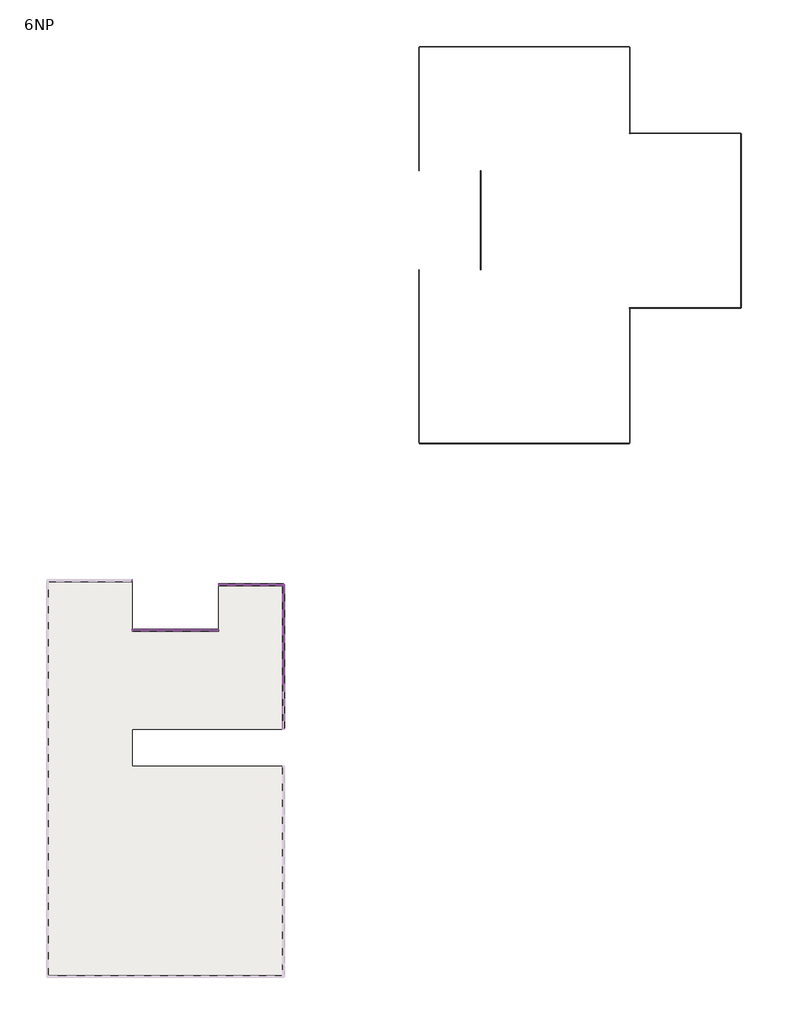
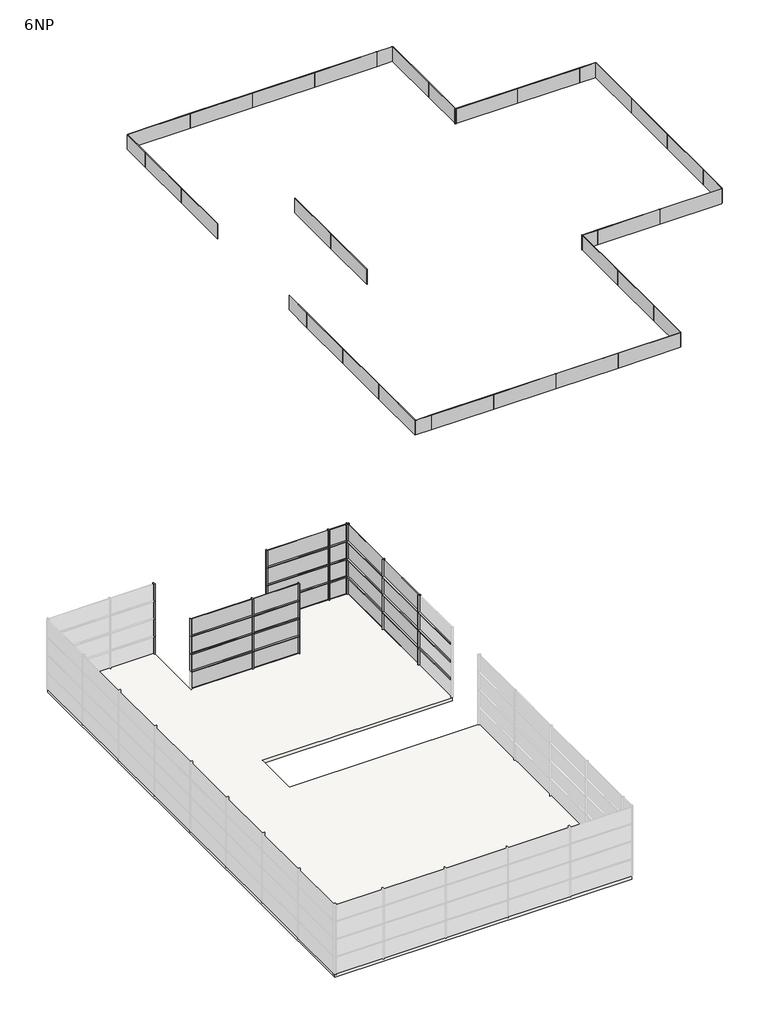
# One storey, part 3 of 3: 60 members, 58 plates, 1 slab.
"""IFC4 building model written with IfcOpenShell, lengths in millimetres."""

from ifc_helpers import new_model, si_unit, frame, origin, place, context, project, spatial, polyline, outline, extrude, transform, mapped, element, save
from components import rectangular_mullion_50_x_150mm_d99dc9be, rectangular_mullion_50_x_150mm_6588f46c, rectangular_mullion_50_x_150mm_3fe1b35e, rectangular_mullion_50_x_150mm_a037c29c, rectangular_mullion_50_x_150mm_c2546fd4, rectangular_mullion_50_x_150mm_568dda71, rectangular_mullion_50_x_150mm_268a5786, rectangular_mullion_50_x_150mm_185cfd49, rectangular_mullion_50_x_150mm_2fe63767, system_panel_glazed_8e9402eb, system_panel_glazed_89ac83a7, system_panel_glazed_cf4d7c03, system_panel_glazed_7b3729bb, system_panel_glazed_e3e91f99, system_panel_glazed_42406b18, system_panel_glazed_39d17f19, system_panel_glazed_61ef3558, system_panel_glazed_bb07d536, system_panel_glazed_0a4e9c67, system_panel_glazed_80d48844, system_panel_glazed_27c984d1, system_panel_glazed_a1594aab, system_panel_glazed_1a95088b

model = new_model("IFC4")

# Units and contexts
model_context = context("Model", 3, world=origin())
ifc_project = project(units=[si_unit("LENGTHUNIT", "METRE", prefix="MILLI")], contexts=[model_context])

# Site, building, storey
site = spatial("IfcSite", under=ifc_project)
building = spatial("IfcBuilding", under=site)
storey = spatial("IfcBuildingStorey", under=building, Name="6NP", Elevation=24000.0)

# Members
placement = place(None, origin())
rectangular_mullion_50_x_150mm_shape = rectangular_mullion_50_x_150mm_d99dc9be(model_context)
element("IfcMember", 1, ObjectType="Rectangular Mullion : 50 x 150mm", at=placement, inside=storey, context=model_context, shape_type="MappedRepresentation", body=[
    mapped(rectangular_mullion_50_x_150mm_shape, transform((13503.2660975, 39.3555415, 27600.0), x_axis=(0.0, -1.0, 0.0), y_axis=(1.0, 0.0, 0.0), z_axis=(0.0, 0.0, 1.0))),
])
element("IfcMember", 2, ObjectType="Rectangular Mullion : 50 x 150mm", at=placement, inside=storey, context=model_context, shape_type="MappedRepresentation", body=[
    mapped(rectangular_mullion_50_x_150mm_shape, transform((13503.2660975, 39.3555415, 26400.0), x_axis=(0.0, -1.0, 0.0), y_axis=(1.0, 0.0, 0.0), z_axis=(0.0, 0.0, 1.0))),
])
element("IfcMember", 3, ObjectType="Rectangular Mullion : 50 x 150mm", at=placement, inside=storey, context=model_context, shape_type="MappedRepresentation", body=[
    mapped(rectangular_mullion_50_x_150mm_shape, transform((13503.2660975, 39.3555415, 25200.0), x_axis=(0.0, -1.0, 0.0), y_axis=(1.0, 0.0, 0.0), z_axis=(0.0, 0.0, 1.0))),
])
element("IfcMember", 4, ObjectType="Rectangular Mullion : 50 x 150mm", at=placement, inside=storey, context=model_context, shape_type="MappedRepresentation", body=[
    mapped(rectangular_mullion_50_x_150mm_shape, transform((13503.2660975, 4039.3555415, 27600.0), x_axis=(0.0, -1.0, 0.0), y_axis=(1.0, 0.0, 0.0), z_axis=(0.0, 0.0, 1.0))),
])
element("IfcMember", 5, ObjectType="Rectangular Mullion : 50 x 150mm", at=placement, inside=storey, context=model_context, shape_type="MappedRepresentation", body=[
    mapped(rectangular_mullion_50_x_150mm_shape, transform((13503.2660975, 4039.3555415, 26400.0), x_axis=(0.0, -1.0, 0.0), y_axis=(1.0, 0.0, 0.0), z_axis=(0.0, 0.0, 1.0))),
])
element("IfcMember", 6, ObjectType="Rectangular Mullion : 50 x 150mm", at=placement, inside=storey, context=model_context, shape_type="MappedRepresentation", body=[
    mapped(rectangular_mullion_50_x_150mm_shape, transform((13503.2660975, 4039.3555415, 25200.0), x_axis=(0.0, -1.0, 0.0), y_axis=(1.0, 0.0, 0.0), z_axis=(0.0, 0.0, 1.0))),
])
element("IfcMember", 7, ObjectType="Rectangular Mullion : 50 x 150mm", at=placement, inside=storey, context=model_context, shape_type="MappedRepresentation", body=[
    mapped(rectangular_mullion_50_x_150mm_shape, transform((5278.419219, 4375.9839566, 25200.0), x_axis=(1.0, 0.0, 0.0), y_axis=(0.0, 1.0, 0.0), z_axis=(0.0, 0.0, 1.0))),
])
element("IfcMember", 8, ObjectType="Rectangular Mullion : 50 x 150mm", at=placement, inside=storey, context=model_context, shape_type="MappedRepresentation", body=[
    mapped(rectangular_mullion_50_x_150mm_shape, transform((5278.419219, 4375.9839566, 26400.0), x_axis=(1.0, 0.0, 0.0), y_axis=(0.0, 1.0, 0.0), z_axis=(0.0, 0.0, 1.0))),
])
element("IfcMember", 9, ObjectType="Rectangular Mullion : 50 x 150mm", at=placement, inside=storey, context=model_context, shape_type="MappedRepresentation", body=[
    mapped(rectangular_mullion_50_x_150mm_shape, transform((5278.419219, 4375.9839566, 27600.0), x_axis=(1.0, 0.0, 0.0), y_axis=(0.0, 1.0, 0.0), z_axis=(0.0, 0.0, 1.0))),
])
element("IfcMember", 10, ObjectType="Rectangular Mullion : 50 x 150mm", at=placement, inside=storey, context=model_context, shape_type="MappedRepresentation", body=[
    mapped(rectangular_mullion_50_x_150mm_shape, transform((12278.419219, 8039.3555415, 25200.0), x_axis=(1.0, 0.0, 0.0), y_axis=(0.0, 1.0, 0.0), z_axis=(0.0, 0.0, 1.0))),
])
element("IfcMember", 11, ObjectType="Rectangular Mullion : 50 x 150mm", at=placement, inside=storey, context=model_context, shape_type="MappedRepresentation", body=[
    mapped(rectangular_mullion_50_x_150mm_shape, transform((12278.419219, 8039.3555415, 26400.0), x_axis=(1.0, 0.0, 0.0), y_axis=(0.0, 1.0, 0.0), z_axis=(0.0, 0.0, 1.0))),
])
element("IfcMember", 12, ObjectType="Rectangular Mullion : 50 x 150mm", at=placement, inside=storey, context=model_context, shape_type="MappedRepresentation", body=[
    mapped(rectangular_mullion_50_x_150mm_shape, transform((12278.419219, 8039.3555415, 27600.0), x_axis=(1.0, 0.0, 0.0), y_axis=(0.0, 1.0, 0.0), z_axis=(0.0, 0.0, 1.0))),
])
rectangular_mullion_50_x_150mm_2_shape = rectangular_mullion_50_x_150mm_6588f46c(model_context)
element("IfcMember", 13, ObjectType="Rectangular Mullion : 50 x 150mm", at=placement, inside=storey, context=model_context, shape_type="MappedRepresentation", body=[
    mapped(rectangular_mullion_50_x_150mm_2_shape, transform((1278.419219, 8375.9839566, 25200.0), x_axis=(1.0, 0.0, 0.0), y_axis=(0.0, 1.0, 0.0), z_axis=(0.0, 0.0, 1.0))),
])
element("IfcMember", 14, ObjectType="Rectangular Mullion : 50 x 150mm", at=placement, inside=storey, context=model_context, shape_type="MappedRepresentation", body=[
    mapped(rectangular_mullion_50_x_150mm_2_shape, transform((1278.419219, 8375.9839566, 26400.0), x_axis=(1.0, 0.0, 0.0), y_axis=(0.0, 1.0, 0.0), z_axis=(0.0, 0.0, 1.0))),
])
element("IfcMember", 15, ObjectType="Rectangular Mullion : 50 x 150mm", at=placement, inside=storey, context=model_context, shape_type="MappedRepresentation", body=[
    mapped(rectangular_mullion_50_x_150mm_2_shape, transform((1278.419219, 8375.9839566, 27600.0), x_axis=(1.0, 0.0, 0.0), y_axis=(0.0, 1.0, 0.0), z_axis=(0.0, 0.0, 1.0))),
])
element("IfcMember", 16, ObjectType="Rectangular Mullion : 50 x 150mm", at=placement, inside=storey, context=model_context, shape_type="MappedRepresentation", body=[
    mapped(rectangular_mullion_50_x_150mm_2_shape, transform((8278.419219, 4375.9839566, 25200.0), x_axis=(1.0, 0.0, 0.0), y_axis=(0.0, 1.0, 0.0), z_axis=(0.0, 0.0, 1.0))),
])
element("IfcMember", 17, ObjectType="Rectangular Mullion : 50 x 150mm", at=placement, inside=storey, context=model_context, shape_type="MappedRepresentation", body=[
    mapped(rectangular_mullion_50_x_150mm_2_shape, transform((8278.419219, 4375.9839566, 26400.0), x_axis=(1.0, 0.0, 0.0), y_axis=(0.0, 1.0, 0.0), z_axis=(0.0, 0.0, 1.0))),
])
element("IfcMember", 18, ObjectType="Rectangular Mullion : 50 x 150mm", at=placement, inside=storey, context=model_context, shape_type="MappedRepresentation", body=[
    mapped(rectangular_mullion_50_x_150mm_2_shape, transform((8278.419219, 4375.9839566, 27600.0), x_axis=(1.0, 0.0, 0.0), y_axis=(0.0, 1.0, 0.0), z_axis=(0.0, 0.0, 1.0))),
])
element("IfcMember", 19, ObjectType="Rectangular Mullion : 50 x 150mm", at=placement, inside=storey, context=model_context, shape_type="MappedRepresentation", body=[
    mapped(rectangular_mullion_50_x_150mm_2_shape, transform((13503.2660975, 8039.3555415, 25200.0), x_axis=(1.0, 0.0, 0.0), y_axis=(0.0, 1.0, 0.0), z_axis=(0.0, 0.0, 1.0))),
])
element("IfcMember", 20, ObjectType="Rectangular Mullion : 50 x 150mm", at=placement, inside=storey, context=model_context, shape_type="MappedRepresentation", body=[
    mapped(rectangular_mullion_50_x_150mm_2_shape, transform((13503.2660975, 8039.3555415, 26400.0), x_axis=(1.0, 0.0, 0.0), y_axis=(0.0, 1.0, 0.0), z_axis=(0.0, 0.0, 1.0))),
])
element("IfcMember", 21, ObjectType="Rectangular Mullion : 50 x 150mm", at=placement, inside=storey, context=model_context, shape_type="MappedRepresentation", body=[
    mapped(rectangular_mullion_50_x_150mm_2_shape, transform((13503.2660975, 8039.3555415, 27600.0), x_axis=(1.0, 0.0, 0.0), y_axis=(0.0, 1.0, 0.0), z_axis=(0.0, 0.0, 1.0))),
])
rectangular_mullion_50_x_150mm_3_shape = rectangular_mullion_50_x_150mm_3fe1b35e(model_context)
element("IfcMember", 22, ObjectType="Rectangular Mullion : 50 x 150mm", at=placement, inside=storey, context=model_context, shape_type="MappedRepresentation", body=[
    mapped(rectangular_mullion_50_x_150mm_3_shape, transform((13503.2660975, 14.3555415, 27600.0), x_axis=(0.0, 0.0, 1.0), y_axis=(1.0, 0.0, 0.0), z_axis=(0.0, 1.0, 0.0))),
])
element("IfcMember", 23, ObjectType="Rectangular Mullion : 50 x 150mm", at=placement, inside=storey, context=model_context, shape_type="MappedRepresentation", body=[
    mapped(rectangular_mullion_50_x_150mm_3_shape, transform((13503.2660975, 14.3555415, 26400.0), x_axis=(0.0, 0.0, 1.0), y_axis=(1.0, 0.0, 0.0), z_axis=(0.0, 1.0, 0.0))),
])
element("IfcMember", 24, ObjectType="Rectangular Mullion : 50 x 150mm", at=placement, inside=storey, context=model_context, shape_type="MappedRepresentation", body=[
    mapped(rectangular_mullion_50_x_150mm_3_shape, transform((13503.2660975, 14.3555415, 25200.0), x_axis=(0.0, 0.0, 1.0), y_axis=(1.0, 0.0, 0.0), z_axis=(0.0, 1.0, 0.0))),
])
rectangular_mullion_50_x_150mm_4_shape = rectangular_mullion_50_x_150mm_a037c29c(model_context)
element("IfcMember", 25, ObjectType="Rectangular Mullion : 50 x 150mm", at=placement, inside=storey, context=model_context, shape_type="MappedRepresentation", body=[
    mapped(rectangular_mullion_50_x_150mm_4_shape, transform((13503.2660975, 4014.3555415, 27600.0), x_axis=(0.0, 0.0, 1.0), y_axis=(1.0, 0.0, 0.0), z_axis=(0.0, 1.0, 0.0))),
])
element("IfcMember", 26, ObjectType="Rectangular Mullion : 50 x 150mm", at=placement, inside=storey, context=model_context, shape_type="MappedRepresentation", body=[
    mapped(rectangular_mullion_50_x_150mm_4_shape, transform((13503.2660975, 4014.3555415, 26400.0), x_axis=(0.0, 0.0, 1.0), y_axis=(1.0, 0.0, 0.0), z_axis=(0.0, 1.0, 0.0))),
])
element("IfcMember", 27, ObjectType="Rectangular Mullion : 50 x 150mm", at=placement, inside=storey, context=model_context, shape_type="MappedRepresentation", body=[
    mapped(rectangular_mullion_50_x_150mm_4_shape, transform((13503.2660975, 4014.3555415, 25200.0), x_axis=(0.0, 0.0, 1.0), y_axis=(1.0, 0.0, 0.0), z_axis=(0.0, 1.0, 0.0))),
])
rectangular_mullion_50_x_150mm_5_shape = rectangular_mullion_50_x_150mm_c2546fd4(model_context)
element("IfcMember", 28, ObjectType="Rectangular Mullion : 50 x 150mm", at=placement, inside=storey, context=model_context, shape_type="MappedRepresentation", body=[
    mapped(rectangular_mullion_50_x_150mm_5_shape, transform((13503.2660975, 7989.3555415, 27600.0), x_axis=(0.0, 0.0, 1.0), y_axis=(1.0, 0.0, 0.0), z_axis=(0.0, 1.0, 0.0))),
])
element("IfcMember", 29, ObjectType="Rectangular Mullion : 50 x 150mm", at=placement, inside=storey, context=model_context, shape_type="MappedRepresentation", body=[
    mapped(rectangular_mullion_50_x_150mm_5_shape, transform((13503.2660975, 7989.3555415, 26400.0), x_axis=(0.0, 0.0, 1.0), y_axis=(1.0, 0.0, 0.0), z_axis=(0.0, 1.0, 0.0))),
])
element("IfcMember", 30, ObjectType="Rectangular Mullion : 50 x 150mm", at=placement, inside=storey, context=model_context, shape_type="MappedRepresentation", body=[
    mapped(rectangular_mullion_50_x_150mm_5_shape, transform((13503.2660975, 7989.3555415, 25200.0), x_axis=(0.0, 0.0, 1.0), y_axis=(1.0, 0.0, 0.0), z_axis=(0.0, 1.0, 0.0))),
])
element("IfcMember", 31, ObjectType="Rectangular Mullion : 50 x 150mm", at=placement, inside=storey, context=model_context, shape_type="MappedRepresentation", body=[
    mapped(rectangular_mullion_50_x_150mm_5_shape, transform((1328.419219, 4375.9839566, 25200.0), x_axis=(0.0, 0.0, 1.0), y_axis=(0.0, 1.0, 0.0), z_axis=(-1.0, 0.0, 0.0))),
])
element("IfcMember", 32, ObjectType="Rectangular Mullion : 50 x 150mm", at=placement, inside=storey, context=model_context, shape_type="MappedRepresentation", body=[
    mapped(rectangular_mullion_50_x_150mm_5_shape, transform((1328.419219, 4375.9839566, 26400.0), x_axis=(0.0, 0.0, 1.0), y_axis=(0.0, 1.0, 0.0), z_axis=(-1.0, 0.0, 0.0))),
])
element("IfcMember", 33, ObjectType="Rectangular Mullion : 50 x 150mm", at=placement, inside=storey, context=model_context, shape_type="MappedRepresentation", body=[
    mapped(rectangular_mullion_50_x_150mm_5_shape, transform((1328.419219, 4375.9839566, 27600.0), x_axis=(0.0, 0.0, 1.0), y_axis=(0.0, 1.0, 0.0), z_axis=(-1.0, 0.0, 0.0))),
])
element("IfcMember", 34, ObjectType="Rectangular Mullion : 50 x 150mm", at=placement, inside=storey, context=model_context, shape_type="MappedRepresentation", body=[
    mapped(rectangular_mullion_50_x_150mm_5_shape, transform((8328.419219, 8039.3555415, 25200.0), x_axis=(0.0, 0.0, 1.0), y_axis=(0.0, 1.0, 0.0), z_axis=(-1.0, 0.0, 0.0))),
])
element("IfcMember", 35, ObjectType="Rectangular Mullion : 50 x 150mm", at=placement, inside=storey, context=model_context, shape_type="MappedRepresentation", body=[
    mapped(rectangular_mullion_50_x_150mm_5_shape, transform((8328.419219, 8039.3555415, 26400.0), x_axis=(0.0, 0.0, 1.0), y_axis=(0.0, 1.0, 0.0), z_axis=(-1.0, 0.0, 0.0))),
])
element("IfcMember", 36, ObjectType="Rectangular Mullion : 50 x 150mm", at=placement, inside=storey, context=model_context, shape_type="MappedRepresentation", body=[
    mapped(rectangular_mullion_50_x_150mm_5_shape, transform((8328.419219, 8039.3555415, 27600.0), x_axis=(0.0, 0.0, 1.0), y_axis=(0.0, 1.0, 0.0), z_axis=(-1.0, 0.0, 0.0))),
])
rectangular_mullion_50_x_150mm_6_shape = rectangular_mullion_50_x_150mm_568dda71(model_context)
element("IfcMember", 37, ObjectType="Rectangular Mullion : 50 x 150mm", at=placement, inside=storey, context=model_context, shape_type="MappedRepresentation", body=[
    mapped(rectangular_mullion_50_x_150mm_6_shape, transform((13503.2660975, 39.3555415, 28773.2453384), x_axis=(0.0, -1.0, 0.0), y_axis=(1.0, 0.0, 0.0), z_axis=(0.0, 0.0, 1.0))),
])
element("IfcMember", 38, ObjectType="Rectangular Mullion : 50 x 150mm", at=placement, inside=storey, context=model_context, shape_type="MappedRepresentation", body=[
    mapped(rectangular_mullion_50_x_150mm_6_shape, transform((13503.2660975, 4039.3555415, 28773.2453384), x_axis=(0.0, -1.0, 0.0), y_axis=(1.0, 0.0, 0.0), z_axis=(0.0, 0.0, 1.0))),
])
element("IfcMember", 39, ObjectType="Rectangular Mullion : 50 x 150mm", at=placement, inside=storey, context=model_context, shape_type="MappedRepresentation", body=[
    mapped(rectangular_mullion_50_x_150mm_6_shape, transform((5278.419219, 4375.9839566, 28773.2453384), x_axis=(1.0, 0.0, 0.0), y_axis=(0.0, 1.0, 0.0), z_axis=(0.0, 0.0, 1.0))),
])
element("IfcMember", 40, ObjectType="Rectangular Mullion : 50 x 150mm", at=placement, inside=storey, context=model_context, shape_type="MappedRepresentation", body=[
    mapped(rectangular_mullion_50_x_150mm_6_shape, transform((12278.419219, 8039.3555415, 28773.2453384), x_axis=(1.0, 0.0, 0.0), y_axis=(0.0, 1.0, 0.0), z_axis=(0.0, 0.0, 1.0))),
])
rectangular_mullion_50_x_150mm_7_shape = rectangular_mullion_50_x_150mm_268a5786(model_context)
element("IfcMember", 41, ObjectType="Rectangular Mullion : 50 x 150mm", at=placement, inside=storey, context=model_context, shape_type="MappedRepresentation", body=[
    mapped(rectangular_mullion_50_x_150mm_7_shape, transform((1278.419219, 8375.9839566, 28773.2453384), x_axis=(1.0, 0.0, 0.0), y_axis=(0.0, 1.0, 0.0), z_axis=(0.0, 0.0, 1.0))),
])
element("IfcMember", 42, ObjectType="Rectangular Mullion : 50 x 150mm", at=placement, inside=storey, context=model_context, shape_type="MappedRepresentation", body=[
    mapped(rectangular_mullion_50_x_150mm_7_shape, transform((8278.419219, 4375.9839566, 28773.2453384), x_axis=(1.0, 0.0, 0.0), y_axis=(0.0, 1.0, 0.0), z_axis=(0.0, 0.0, 1.0))),
])
element("IfcMember", 43, ObjectType="Rectangular Mullion : 50 x 150mm", at=placement, inside=storey, context=model_context, shape_type="MappedRepresentation", body=[
    mapped(rectangular_mullion_50_x_150mm_7_shape, transform((13503.2660975, 8039.3555415, 28773.2453384), x_axis=(1.0, 0.0, 0.0), y_axis=(0.0, 1.0, 0.0), z_axis=(0.0, 0.0, 1.0))),
])
element("IfcMember", 44, ObjectType="Rectangular Mullion : 50 x 150mm", at=placement, inside=storey, context=model_context, shape_type="MappedRepresentation", body=[
    mapped(rectangular_mullion_50_x_150mm_7_shape, transform((13503.2660975, 8039.3555415, 27600.0), x_axis=(0.0, 1.0, 0.0), y_axis=(1.0, 0.0, 0.0), z_axis=(0.0, 0.0, -1.0))),
])
element("IfcMember", 45, ObjectType="Rectangular Mullion : 50 x 150mm", at=placement, inside=storey, context=model_context, shape_type="MappedRepresentation", body=[
    mapped(rectangular_mullion_50_x_150mm_7_shape, transform((1278.419219, 4375.9839566, 27600.0), x_axis=(-1.0, 0.0, 0.0), y_axis=(0.0, 1.0, 0.0), z_axis=(0.0, 0.0, -1.0))),
])
element("IfcMember", 46, ObjectType="Rectangular Mullion : 50 x 150mm", at=placement, inside=storey, context=model_context, shape_type="MappedRepresentation", body=[
    mapped(rectangular_mullion_50_x_150mm_7_shape, transform((8278.419219, 8039.3555415, 27600.0), x_axis=(-1.0, 0.0, 0.0), y_axis=(0.0, 1.0, 0.0), z_axis=(0.0, 0.0, -1.0))),
])
element("IfcMember", 47, ObjectType="Rectangular Mullion : 50 x 150mm", at=placement, inside=storey, context=model_context, shape_type="MappedRepresentation", body=[
    mapped(rectangular_mullion_50_x_150mm_2_shape, transform((13503.2660975, 8039.3555415, 26400.0), x_axis=(0.0, 1.0, 0.0), y_axis=(1.0, 0.0, 0.0), z_axis=(0.0, 0.0, -1.0))),
])
element("IfcMember", 48, ObjectType="Rectangular Mullion : 50 x 150mm", at=placement, inside=storey, context=model_context, shape_type="MappedRepresentation", body=[
    mapped(rectangular_mullion_50_x_150mm_2_shape, transform((13503.2660975, 8039.3555415, 25200.0), x_axis=(0.0, 1.0, 0.0), y_axis=(1.0, 0.0, 0.0), z_axis=(0.0, 0.0, -1.0))),
])
element("IfcMember", 49, ObjectType="Rectangular Mullion : 50 x 150mm", at=placement, inside=storey, context=model_context, shape_type="MappedRepresentation", body=[
    mapped(rectangular_mullion_50_x_150mm_2_shape, transform((13503.2660975, 8039.3555415, 24000.0), x_axis=(0.0, 1.0, 0.0), y_axis=(1.0, 0.0, 0.0), z_axis=(0.0, 0.0, -1.0))),
])
element("IfcMember", 50, ObjectType="Rectangular Mullion : 50 x 150mm", at=placement, inside=storey, context=model_context, shape_type="MappedRepresentation", body=[
    mapped(rectangular_mullion_50_x_150mm_2_shape, transform((1278.419219, 4375.9839566, 25200.0), x_axis=(-1.0, 0.0, 0.0), y_axis=(0.0, 1.0, 0.0), z_axis=(0.0, 0.0, -1.0))),
])
element("IfcMember", 51, ObjectType="Rectangular Mullion : 50 x 150mm", at=placement, inside=storey, context=model_context, shape_type="MappedRepresentation", body=[
    mapped(rectangular_mullion_50_x_150mm_2_shape, transform((1278.419219, 4375.9839566, 26400.0), x_axis=(-1.0, 0.0, 0.0), y_axis=(0.0, 1.0, 0.0), z_axis=(0.0, 0.0, -1.0))),
])
element("IfcMember", 52, ObjectType="Rectangular Mullion : 50 x 150mm", at=placement, inside=storey, context=model_context, shape_type="MappedRepresentation", body=[
    mapped(rectangular_mullion_50_x_150mm_2_shape, transform((8278.419219, 8039.3555415, 24000.0), x_axis=(-1.0, 0.0, 0.0), y_axis=(0.0, 1.0, 0.0), z_axis=(0.0, 0.0, -1.0))),
])
element("IfcMember", 53, ObjectType="Rectangular Mullion : 50 x 150mm", at=placement, inside=storey, context=model_context, shape_type="MappedRepresentation", body=[
    mapped(rectangular_mullion_50_x_150mm_2_shape, transform((8278.419219, 8039.3555415, 25200.0), x_axis=(-1.0, 0.0, 0.0), y_axis=(0.0, 1.0, 0.0), z_axis=(0.0, 0.0, -1.0))),
])
element("IfcMember", 54, ObjectType="Rectangular Mullion : 50 x 150mm", at=placement, inside=storey, context=model_context, shape_type="MappedRepresentation", body=[
    mapped(rectangular_mullion_50_x_150mm_2_shape, transform((8278.419219, 8039.3555415, 26400.0), x_axis=(-1.0, 0.0, 0.0), y_axis=(0.0, 1.0, 0.0), z_axis=(0.0, 0.0, -1.0))),
])
rectangular_mullion_50_x_150mm_8_shape = rectangular_mullion_50_x_150mm_185cfd49(model_context)
element("IfcMember", 55, ObjectType="Rectangular Mullion : 50 x 150mm", at=placement, inside=storey, context=model_context, shape_type="MappedRepresentation", body=[
    mapped(rectangular_mullion_50_x_150mm_8_shape, transform((5303.419219, 4375.9839566, 25200.0), x_axis=(0.0, 0.0, 1.0), y_axis=(0.0, 1.0, 0.0), z_axis=(-1.0, 0.0, 0.0))),
])
element("IfcMember", 56, ObjectType="Rectangular Mullion : 50 x 150mm", at=placement, inside=storey, context=model_context, shape_type="MappedRepresentation", body=[
    mapped(rectangular_mullion_50_x_150mm_8_shape, transform((5303.419219, 4375.9839566, 26400.0), x_axis=(0.0, 0.0, 1.0), y_axis=(0.0, 1.0, 0.0), z_axis=(-1.0, 0.0, 0.0))),
])
element("IfcMember", 57, ObjectType="Rectangular Mullion : 50 x 150mm", at=placement, inside=storey, context=model_context, shape_type="MappedRepresentation", body=[
    mapped(rectangular_mullion_50_x_150mm_8_shape, transform((5303.419219, 4375.9839566, 27600.0), x_axis=(0.0, 0.0, 1.0), y_axis=(0.0, 1.0, 0.0), z_axis=(-1.0, 0.0, 0.0))),
])
rectangular_mullion_50_x_150mm_9_shape = rectangular_mullion_50_x_150mm_2fe63767(model_context)
element("IfcMember", 58, ObjectType="Rectangular Mullion : 50 x 150mm", at=placement, inside=storey, context=model_context, shape_type="MappedRepresentation", body=[
    mapped(rectangular_mullion_50_x_150mm_9_shape, transform((12303.419219, 8039.3555415, 25200.0), x_axis=(0.0, 0.0, 1.0), y_axis=(0.0, 1.0, 0.0), z_axis=(-1.0, 0.0, 0.0))),
])
element("IfcMember", 59, ObjectType="Rectangular Mullion : 50 x 150mm", at=placement, inside=storey, context=model_context, shape_type="MappedRepresentation", body=[
    mapped(rectangular_mullion_50_x_150mm_9_shape, transform((12303.419219, 8039.3555415, 26400.0), x_axis=(0.0, 0.0, 1.0), y_axis=(0.0, 1.0, 0.0), z_axis=(-1.0, 0.0, 0.0))),
])
element("IfcMember", 60, ObjectType="Rectangular Mullion : 50 x 150mm", at=placement, inside=storey, context=model_context, shape_type="MappedRepresentation", body=[
    mapped(rectangular_mullion_50_x_150mm_9_shape, transform((12303.419219, 8039.3555415, 27600.0), x_axis=(0.0, 0.0, 1.0), y_axis=(0.0, 1.0, 0.0), z_axis=(-1.0, 0.0, 0.0))),
])

# Plates
system_panel_glazed_shape = system_panel_glazed_8e9402eb(model_context)
element("IfcPlate", 61, ObjectType="System Panel : Glazed", at=placement, inside=storey, context=model_context, shape_type="MappedRepresentation", body=[
    mapped(system_panel_glazed_shape, transform((13503.2660975, 6026.8555415, 24025.0), x_axis=(0.0, -1.0, 0.0), y_axis=(1.0, 0.0, 0.0), z_axis=(0.0, 0.0, 1.0))),
])
element("IfcPlate", 62, ObjectType="System Panel : Glazed", at=placement, inside=storey, context=model_context, shape_type="MappedRepresentation", body=[
    mapped(system_panel_glazed_shape, transform((13503.2660975, 6026.8555415, 25225.0), x_axis=(0.0, -1.0, 0.0), y_axis=(1.0, 0.0, 0.0), z_axis=(0.0, 0.0, 1.0))),
])
element("IfcPlate", 63, ObjectType="System Panel : Glazed", at=placement, inside=storey, context=model_context, shape_type="MappedRepresentation", body=[
    mapped(system_panel_glazed_shape, transform((13503.2660975, 6026.8555415, 26425.0), x_axis=(0.0, -1.0, 0.0), y_axis=(1.0, 0.0, 0.0), z_axis=(0.0, 0.0, 1.0))),
])
element("IfcPlate", 64, ObjectType="System Panel : Glazed", at=placement, inside=storey, context=model_context, shape_type="MappedRepresentation", body=[
    mapped(system_panel_glazed_shape, transform((10290.919219, 8039.3555415, 24025.0), x_axis=(1.0, 0.0, 0.0), y_axis=(0.0, 1.0, 0.0), z_axis=(0.0, 0.0, 1.0))),
])
element("IfcPlate", 65, ObjectType="System Panel : Glazed", at=placement, inside=storey, context=model_context, shape_type="MappedRepresentation", body=[
    mapped(system_panel_glazed_shape, transform((10290.919219, 8039.3555415, 25225.0), x_axis=(1.0, 0.0, 0.0), y_axis=(0.0, 1.0, 0.0), z_axis=(0.0, 0.0, 1.0))),
])
element("IfcPlate", 66, ObjectType="System Panel : Glazed", at=placement, inside=storey, context=model_context, shape_type="MappedRepresentation", body=[
    mapped(system_panel_glazed_shape, transform((10290.919219, 8039.3555415, 26425.0), x_axis=(1.0, 0.0, 0.0), y_axis=(0.0, 1.0, 0.0), z_axis=(0.0, 0.0, 1.0))),
])
element("IfcPlate", 67, ObjectType="System Panel : Glazed", at=placement, inside=storey, context=model_context, shape_type="MappedRepresentation", body=[
    mapped(system_panel_glazed_shape, transform((3290.919219, 4375.9839566, 24025.0), x_axis=(1.0, 0.0, 0.0), y_axis=(0.0, 1.0, 0.0), z_axis=(0.0, 0.0, 1.0))),
])
element("IfcPlate", 68, ObjectType="System Panel : Glazed", at=placement, inside=storey, context=model_context, shape_type="MappedRepresentation", body=[
    mapped(system_panel_glazed_shape, transform((3290.919219, 4375.9839566, 25225.0), x_axis=(1.0, 0.0, 0.0), y_axis=(0.0, 1.0, 0.0), z_axis=(0.0, 0.0, 1.0))),
])
element("IfcPlate", 69, ObjectType="System Panel : Glazed", at=placement, inside=storey, context=model_context, shape_type="MappedRepresentation", body=[
    mapped(system_panel_glazed_shape, transform((3290.919219, 4375.9839566, 26425.0), x_axis=(1.0, 0.0, 0.0), y_axis=(0.0, 1.0, 0.0), z_axis=(0.0, 0.0, 1.0))),
])
system_panel_glazed_2_shape = system_panel_glazed_89ac83a7(model_context)
element("IfcPlate", 70, ObjectType="System Panel : Glazed", at=placement, inside=storey, context=model_context, shape_type="MappedRepresentation", body=[
    mapped(system_panel_glazed_2_shape, transform((13503.2660975, 2039.3555415, 24025.0), x_axis=(0.0, -1.0, 0.0), y_axis=(1.0, 0.0, 0.0), z_axis=(0.0, 0.0, 1.0))),
])
element("IfcPlate", 71, ObjectType="System Panel : Glazed", at=placement, inside=storey, context=model_context, shape_type="MappedRepresentation", body=[
    mapped(system_panel_glazed_2_shape, transform((13503.2660975, 2039.3555415, 25225.0), x_axis=(0.0, -1.0, 0.0), y_axis=(1.0, 0.0, 0.0), z_axis=(0.0, 0.0, 1.0))),
])
element("IfcPlate", 72, ObjectType="System Panel : Glazed", at=placement, inside=storey, context=model_context, shape_type="MappedRepresentation", body=[
    mapped(system_panel_glazed_2_shape, transform((13503.2660975, 2039.3555415, 26425.0), x_axis=(0.0, -1.0, 0.0), y_axis=(1.0, 0.0, 0.0), z_axis=(0.0, 0.0, 1.0))),
])
system_panel_glazed_3_shape = system_panel_glazed_cf4d7c03(model_context)
element("IfcPlate", 73, ObjectType="System Panel : Glazed", at=placement, inside=storey, context=model_context, shape_type="MappedRepresentation", body=[
    mapped(system_panel_glazed_3_shape, transform((13503.2660975, 6026.8555415, 27625.0), x_axis=(0.0, -1.0, 0.0), y_axis=(1.0, 0.0, 0.0), z_axis=(0.0, 0.0, 1.0))),
])
element("IfcPlate", 74, ObjectType="System Panel : Glazed", at=placement, inside=storey, context=model_context, shape_type="MappedRepresentation", body=[
    mapped(system_panel_glazed_3_shape, transform((10290.919219, 8039.3555415, 27625.0), x_axis=(1.0, 0.0, 0.0), y_axis=(0.0, 1.0, 0.0), z_axis=(0.0, 0.0, 1.0))),
])
element("IfcPlate", 75, ObjectType="System Panel : Glazed", at=placement, inside=storey, context=model_context, shape_type="MappedRepresentation", body=[
    mapped(system_panel_glazed_3_shape, transform((3290.919219, 4375.9839566, 27625.0), x_axis=(1.0, 0.0, 0.0), y_axis=(0.0, 1.0, 0.0), z_axis=(0.0, 0.0, 1.0))),
])
system_panel_glazed_4_shape = system_panel_glazed_7b3729bb(model_context)
element("IfcPlate", 76, ObjectType="System Panel : Glazed", at=placement, inside=storey, context=model_context, shape_type="MappedRepresentation", body=[
    mapped(system_panel_glazed_4_shape, transform((13503.2660975, 2039.3555415, 27625.0), x_axis=(0.0, -1.0, 0.0), y_axis=(1.0, 0.0, 0.0), z_axis=(0.0, 0.0, 1.0))),
])
system_panel_glazed_5_shape = system_panel_glazed_e3e91f99(model_context)
element("IfcPlate", 77, ObjectType="System Panel : Glazed", at=placement, inside=storey, context=model_context, shape_type="MappedRepresentation", body=[
    mapped(system_panel_glazed_5_shape, transform((6765.919219, 4375.9839566, 24025.0), x_axis=(1.0, 0.0, 0.0), y_axis=(0.0, 1.0, 0.0), z_axis=(0.0, 0.0, 1.0))),
])
element("IfcPlate", 78, ObjectType="System Panel : Glazed", at=placement, inside=storey, context=model_context, shape_type="MappedRepresentation", body=[
    mapped(system_panel_glazed_5_shape, transform((6765.919219, 4375.9839566, 25225.0), x_axis=(1.0, 0.0, 0.0), y_axis=(0.0, 1.0, 0.0), z_axis=(0.0, 0.0, 1.0))),
])
element("IfcPlate", 79, ObjectType="System Panel : Glazed", at=placement, inside=storey, context=model_context, shape_type="MappedRepresentation", body=[
    mapped(system_panel_glazed_5_shape, transform((6765.919219, 4375.9839566, 26425.0), x_axis=(1.0, 0.0, 0.0), y_axis=(0.0, 1.0, 0.0), z_axis=(0.0, 0.0, 1.0))),
])
system_panel_glazed_6_shape = system_panel_glazed_42406b18(model_context)
element("IfcPlate", 80, ObjectType="System Panel : Glazed", at=placement, inside=storey, context=model_context, shape_type="MappedRepresentation", body=[
    mapped(system_panel_glazed_6_shape, transform((6765.919219, 4375.9839566, 27625.0), x_axis=(1.0, 0.0, 0.0), y_axis=(0.0, 1.0, 0.0), z_axis=(0.0, 0.0, 1.0))),
])
system_panel_glazed_7_shape = system_panel_glazed_39d17f19(model_context)
element("IfcPlate", 81, ObjectType="System Panel : Glazed", at=placement, inside=storey, context=model_context, shape_type="MappedRepresentation", body=[
    mapped(system_panel_glazed_7_shape, transform((12878.3426582, 8039.3555415, 24025.0), x_axis=(1.0, 0.0, 0.0), y_axis=(0.0, 1.0, 0.0), z_axis=(0.0, 0.0, 1.0))),
])
element("IfcPlate", 82, ObjectType="System Panel : Glazed", at=placement, inside=storey, context=model_context, shape_type="MappedRepresentation", body=[
    mapped(system_panel_glazed_7_shape, transform((12878.3426582, 8039.3555415, 25225.0), x_axis=(1.0, 0.0, 0.0), y_axis=(0.0, 1.0, 0.0), z_axis=(0.0, 0.0, 1.0))),
])
element("IfcPlate", 83, ObjectType="System Panel : Glazed", at=placement, inside=storey, context=model_context, shape_type="MappedRepresentation", body=[
    mapped(system_panel_glazed_7_shape, transform((12878.3426582, 8039.3555415, 26425.0), x_axis=(1.0, 0.0, 0.0), y_axis=(0.0, 1.0, 0.0), z_axis=(0.0, 0.0, 1.0))),
])
system_panel_glazed_8_shape = system_panel_glazed_61ef3558(model_context)
element("IfcPlate", 84, ObjectType="System Panel : Glazed", at=placement, inside=storey, context=model_context, shape_type="MappedRepresentation", body=[
    mapped(system_panel_glazed_8_shape, transform((12878.3426582, 8039.3555415, 27625.0), x_axis=(1.0, 0.0, 0.0), y_axis=(0.0, 1.0, 0.0), z_axis=(0.0, 0.0, 1.0))),
])
system_panel_glazed_9_shape = system_panel_glazed_bb07d536(model_context)
element("IfcPlate", 85, ObjectType="System Panel : Glazed", at=placement, inside=storey, context=model_context, shape_type="MappedRepresentation", body=[
    mapped(system_panel_glazed_9_shape, transform((39503.2660975, 19519.7749227, 24000.0), x_axis=(-1.0, 0.0, 0.0), y_axis=(0.0, -1.0, 0.0), z_axis=(0.0, 0.0, 1.0))),
])
element("IfcPlate", 86, ObjectType="System Panel : Glazed", at=placement, inside=storey, context=model_context, shape_type="MappedRepresentation", body=[
    mapped(system_panel_glazed_9_shape, transform((35503.2660975, 19519.7749227, 24000.0), x_axis=(-1.0, 0.0, 0.0), y_axis=(0.0, -1.0, 0.0), z_axis=(0.0, 0.0, 1.0))),
])
element("IfcPlate", 87, ObjectType="System Panel : Glazed", at=placement, inside=storey, context=model_context, shape_type="MappedRepresentation", body=[
    mapped(system_panel_glazed_9_shape, transform((31503.2660975, 19519.7749227, 24000.0), x_axis=(-1.0, 0.0, 0.0), y_axis=(0.0, -1.0, 0.0), z_axis=(0.0, 0.0, 1.0))),
])
element("IfcPlate", 88, ObjectType="System Panel : Glazed", at=placement, inside=storey, context=model_context, shape_type="MappedRepresentation", body=[
    mapped(system_panel_glazed_9_shape, transform((27503.2660975, 19519.7749227, 24000.0), x_axis=(-1.0, 0.0, 0.0), y_axis=(0.0, -1.0, 0.0), z_axis=(0.0, 0.0, 1.0))),
])
element("IfcPlate", 89, ObjectType="System Panel : Glazed", at=placement, inside=storey, context=model_context, shape_type="MappedRepresentation", body=[
    mapped(system_panel_glazed_9_shape, transform((24503.2660975, 21519.7749227, 24000.0), x_axis=(0.0, 1.0, 0.0), y_axis=(-1.0, 0.0, 0.0), z_axis=(0.0, 0.0, 1.0))),
])
element("IfcPlate", 90, ObjectType="System Panel : Glazed", at=placement, inside=storey, context=model_context, shape_type="MappedRepresentation", body=[
    mapped(system_panel_glazed_9_shape, transform((24503.2660975, 25519.7749227, 24000.0), x_axis=(0.0, 1.0, 0.0), y_axis=(-1.0, 0.0, 0.0), z_axis=(0.0, 0.0, 1.0))),
])
element("IfcPlate", 91, ObjectType="System Panel : Glazed", at=placement, inside=storey, context=model_context, shape_type="MappedRepresentation", body=[
    mapped(system_panel_glazed_9_shape, transform((24503.2660975, 29519.7749227, 24000.0), x_axis=(0.0, 1.0, 0.0), y_axis=(-1.0, 0.0, 0.0), z_axis=(0.0, 0.0, 1.0))),
])
element("IfcPlate", 92, ObjectType="System Panel : Glazed", at=placement, inside=storey, context=model_context, shape_type="MappedRepresentation", body=[
    mapped(system_panel_glazed_9_shape, transform((29503.2660975, 35519.7749227, 24000.0), x_axis=(0.0, 1.0, 0.0), y_axis=(-1.0, 0.0, 0.0), z_axis=(0.0, 0.0, 1.0))),
])
element("IfcPlate", 93, ObjectType="System Panel : Glazed", at=placement, inside=storey, context=model_context, shape_type="MappedRepresentation", body=[
    mapped(system_panel_glazed_9_shape, transform((29503.2660975, 39519.7749227, 24000.0), x_axis=(0.0, 1.0, 0.0), y_axis=(-1.0, 0.0, 0.0), z_axis=(0.0, 0.0, 1.0))),
])
element("IfcPlate", 94, ObjectType="System Panel : Glazed", at=placement, inside=storey, context=model_context, shape_type="MappedRepresentation", body=[
    mapped(system_panel_glazed_9_shape, transform((24503.2660975, 43519.7749227, 24000.0), x_axis=(0.0, 1.0, 0.0), y_axis=(-1.0, 0.0, 0.0), z_axis=(0.0, 0.0, 1.0))),
])
element("IfcPlate", 95, ObjectType="System Panel : Glazed", at=placement, inside=storey, context=model_context, shape_type="MappedRepresentation", body=[
    mapped(system_panel_glazed_9_shape, transform((24503.2660975, 47519.7749227, 24000.0), x_axis=(0.0, 1.0, 0.0), y_axis=(-1.0, 0.0, 0.0), z_axis=(0.0, 0.0, 1.0))),
])
element("IfcPlate", 96, ObjectType="System Panel : Glazed", at=placement, inside=storey, context=model_context, shape_type="MappedRepresentation", body=[
    mapped(system_panel_glazed_9_shape, transform((48503.2660975, 30457.4517739, 24000.0), x_axis=(-1.0, 0.0, 0.0), y_axis=(0.0, -1.0, 0.0), z_axis=(0.0, 0.0, 1.0))),
])
element("IfcPlate", 97, ObjectType="System Panel : Glazed", at=placement, inside=storey, context=model_context, shape_type="MappedRepresentation", body=[
    mapped(system_panel_glazed_9_shape, transform((44503.2660975, 30457.4517739, 24000.0), x_axis=(-1.0, 0.0, 0.0), y_axis=(0.0, -1.0, 0.0), z_axis=(0.0, 0.0, 1.0))),
])
element("IfcPlate", 98, ObjectType="System Panel : Glazed", at=placement, inside=storey, context=model_context, shape_type="MappedRepresentation", body=[
    mapped(system_panel_glazed_9_shape, transform((26503.2660975, 51519.7749227, 24000.0), x_axis=(1.0, 0.0, 0.0), y_axis=(0.0, 1.0, 0.0), z_axis=(0.0, 0.0, 1.0))),
])
element("IfcPlate", 99, ObjectType="System Panel : Glazed", at=placement, inside=storey, context=model_context, shape_type="MappedRepresentation", body=[
    mapped(system_panel_glazed_9_shape, transform((30503.2660975, 51519.7749227, 24000.0), x_axis=(1.0, 0.0, 0.0), y_axis=(0.0, 1.0, 0.0), z_axis=(0.0, 0.0, 1.0))),
])
element("IfcPlate", 100, ObjectType="System Panel : Glazed", at=placement, inside=storey, context=model_context, shape_type="MappedRepresentation", body=[
    mapped(system_panel_glazed_9_shape, transform((34503.2660975, 51519.7749227, 24000.0), x_axis=(1.0, 0.0, 0.0), y_axis=(0.0, 1.0, 0.0), z_axis=(0.0, 0.0, 1.0))),
])
element("IfcPlate", 101, ObjectType="System Panel : Glazed", at=placement, inside=storey, context=model_context, shape_type="MappedRepresentation", body=[
    mapped(system_panel_glazed_9_shape, transform((38503.2660975, 51519.7749227, 24000.0), x_axis=(1.0, 0.0, 0.0), y_axis=(0.0, 1.0, 0.0), z_axis=(0.0, 0.0, 1.0))),
])
element("IfcPlate", 102, ObjectType="System Panel : Glazed", at=placement, inside=storey, context=model_context, shape_type="MappedRepresentation", body=[
    mapped(system_panel_glazed_9_shape, transform((41503.2660975, 49519.7749227, 24000.0), x_axis=(0.0, -1.0, 0.0), y_axis=(1.0, 0.0, 0.0), z_axis=(0.0, 0.0, 1.0))),
])
element("IfcPlate", 103, ObjectType="System Panel : Glazed", at=placement, inside=storey, context=model_context, shape_type="MappedRepresentation", body=[
    mapped(system_panel_glazed_9_shape, transform((43503.2660975, 44519.7749227, 24000.0), x_axis=(1.0, 0.0, 0.0), y_axis=(0.0, 1.0, 0.0), z_axis=(0.0, 0.0, 1.0))),
])
element("IfcPlate", 104, ObjectType="System Panel : Glazed", at=placement, inside=storey, context=model_context, shape_type="MappedRepresentation", body=[
    mapped(system_panel_glazed_9_shape, transform((47503.2660975, 44519.7749227, 24000.0), x_axis=(1.0, 0.0, 0.0), y_axis=(0.0, 1.0, 0.0), z_axis=(0.0, 0.0, 1.0))),
])
element("IfcPlate", 105, ObjectType="System Panel : Glazed", at=placement, inside=storey, context=model_context, shape_type="MappedRepresentation", body=[
    mapped(system_panel_glazed_9_shape, transform((50503.2660975, 42519.7749227, 24000.0), x_axis=(0.0, -1.0, 0.0), y_axis=(1.0, 0.0, 0.0), z_axis=(0.0, 0.0, 1.0))),
])
element("IfcPlate", 106, ObjectType="System Panel : Glazed", at=placement, inside=storey, context=model_context, shape_type="MappedRepresentation", body=[
    mapped(system_panel_glazed_9_shape, transform((50503.2660975, 38519.7749227, 24000.0), x_axis=(0.0, -1.0, 0.0), y_axis=(1.0, 0.0, 0.0), z_axis=(0.0, 0.0, 1.0))),
])
element("IfcPlate", 107, ObjectType="System Panel : Glazed", at=placement, inside=storey, context=model_context, shape_type="MappedRepresentation", body=[
    mapped(system_panel_glazed_9_shape, transform((50503.2660975, 34519.7749227, 24000.0), x_axis=(0.0, -1.0, 0.0), y_axis=(1.0, 0.0, 0.0), z_axis=(0.0, 0.0, 1.0))),
])
element("IfcPlate", 108, ObjectType="System Panel : Glazed", at=placement, inside=storey, context=model_context, shape_type="MappedRepresentation", body=[
    mapped(system_panel_glazed_9_shape, transform((41503.2660975, 28457.4517739, 24000.0), x_axis=(0.0, -1.0, 0.0), y_axis=(1.0, 0.0, 0.0), z_axis=(0.0, 0.0, 1.0))),
])
element("IfcPlate", 109, ObjectType="System Panel : Glazed", at=placement, inside=storey, context=model_context, shape_type="MappedRepresentation", body=[
    mapped(system_panel_glazed_9_shape, transform((41503.2660975, 24457.4517739, 24000.0), x_axis=(0.0, -1.0, 0.0), y_axis=(1.0, 0.0, 0.0), z_axis=(0.0, 0.0, 1.0))),
])
system_panel_glazed_10_shape = system_panel_glazed_0a4e9c67(model_context)
element("IfcPlate", 110, ObjectType="System Panel : Glazed", at=placement, inside=storey, context=model_context, shape_type="MappedRepresentation", body=[
    mapped(system_panel_glazed_10_shape, transform((25003.2660975, 19519.7749227, 24000.0), x_axis=(-1.0, 0.0, 0.0), y_axis=(0.0, -1.0, 0.0), z_axis=(0.0, 0.0, 1.0))),
])
element("IfcPlate", 111, ObjectType="System Panel : Glazed", at=placement, inside=storey, context=model_context, shape_type="MappedRepresentation", body=[
    mapped(system_panel_glazed_10_shape, transform((42003.2660975, 30457.4517739, 24000.0), x_axis=(-1.0, 0.0, 0.0), y_axis=(0.0, -1.0, 0.0), z_axis=(0.0, 0.0, 1.0))),
])
element("IfcPlate", 112, ObjectType="System Panel : Glazed", at=placement, inside=storey, context=model_context, shape_type="MappedRepresentation", body=[
    mapped(system_panel_glazed_10_shape, transform((41003.2660975, 51519.7749227, 24000.0), x_axis=(1.0, 0.0, 0.0), y_axis=(0.0, 1.0, 0.0), z_axis=(0.0, 0.0, 1.0))),
])
element("IfcPlate", 113, ObjectType="System Panel : Glazed", at=placement, inside=storey, context=model_context, shape_type="MappedRepresentation", body=[
    mapped(system_panel_glazed_10_shape, transform((50003.2660975, 44519.7749227, 24000.0), x_axis=(1.0, 0.0, 0.0), y_axis=(0.0, 1.0, 0.0), z_axis=(0.0, 0.0, 1.0))),
])
system_panel_glazed_11_shape = system_panel_glazed_80d48844(model_context)
element("IfcPlate", 114, ObjectType="System Panel : Glazed", at=placement, inside=storey, context=model_context, shape_type="MappedRepresentation", body=[
    mapped(system_panel_glazed_11_shape, transform((24503.2660975, 32519.7749227, 24000.0), x_axis=(0.0, 1.0, 0.0), y_axis=(-1.0, 0.0, 0.0), z_axis=(0.0, 0.0, 1.0))),
])
element("IfcPlate", 115, ObjectType="System Panel : Glazed", at=placement, inside=storey, context=model_context, shape_type="MappedRepresentation", body=[
    mapped(system_panel_glazed_11_shape, transform((24503.2660975, 50519.7749227, 24000.0), x_axis=(0.0, 1.0, 0.0), y_axis=(-1.0, 0.0, 0.0), z_axis=(0.0, 0.0, 1.0))),
])
system_panel_glazed_12_shape = system_panel_glazed_27c984d1(model_context)
element("IfcPlate", 116, ObjectType="System Panel : Glazed", at=placement, inside=storey, context=model_context, shape_type="MappedRepresentation", body=[
    mapped(system_panel_glazed_12_shape, transform((41503.2660975, 46019.7749227, 24000.0), x_axis=(0.0, -1.0, 0.0), y_axis=(1.0, 0.0, 0.0), z_axis=(0.0, 0.0, 1.0))),
])
system_panel_glazed_13_shape = system_panel_glazed_a1594aab(model_context)
element("IfcPlate", 117, ObjectType="System Panel : Glazed", at=placement, inside=storey, context=model_context, shape_type="MappedRepresentation", body=[
    mapped(system_panel_glazed_13_shape, transform((50503.2660975, 31488.6133483, 24000.0), x_axis=(0.0, -1.0, 0.0), y_axis=(1.0, 0.0, 0.0), z_axis=(0.0, 0.0, 1.0))),
])
system_panel_glazed_14_shape = system_panel_glazed_1a95088b(model_context)
element("IfcPlate", 118, ObjectType="System Panel : Glazed", at=placement, inside=storey, context=model_context, shape_type="MappedRepresentation", body=[
    mapped(system_panel_glazed_14_shape, transform((41503.2660975, 20988.6133483, 24000.0), x_axis=(0.0, -1.0, 0.0), y_axis=(1.0, 0.0, 0.0), z_axis=(0.0, 0.0, 1.0))),
])

# Slab
element("IfcSlab", 119, ObjectType="Insitu Concrete 225mm", at=placement, inside=storey, context=model_context, shape_type="SweptSolid", body=[
    extrude(outline(polyline([(-5587.173406, 8375.9839566), (1278.419219, 8375.9839566), (1278.419219, 4375.9839566), (8278.419219, 4375.9839566), (8278.419219, 8039.3555415), (13503.2660975, 8039.3555415), (13503.2660975, -3624.0160434), (1278.419219, -3624.0160434), (1278.419219, -6624.0160434), (13503.2660975, -6624.0160434), (13503.2660975, -23624.0160434), (-5587.173406, -23624.0160434), (-5587.173406, 8375.9839566)])), frame((0.0, 0.0, 23775.0), z_axis=(0.0, 0.0, 1.0), x_axis=(1.0, 0.0, 0.0)), (0.0, 0.0, 1.0), 225.0),
])

save(model, "model.ifc")
